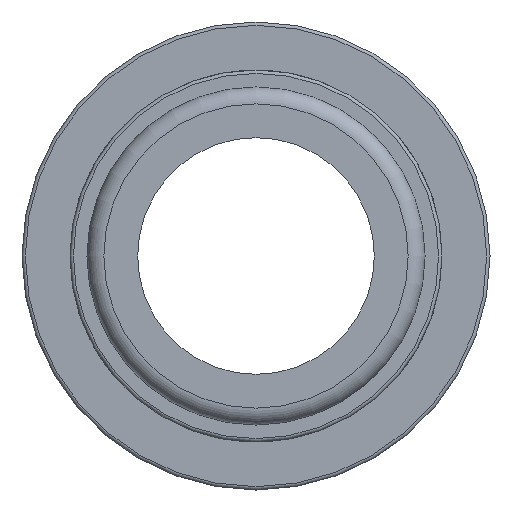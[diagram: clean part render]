
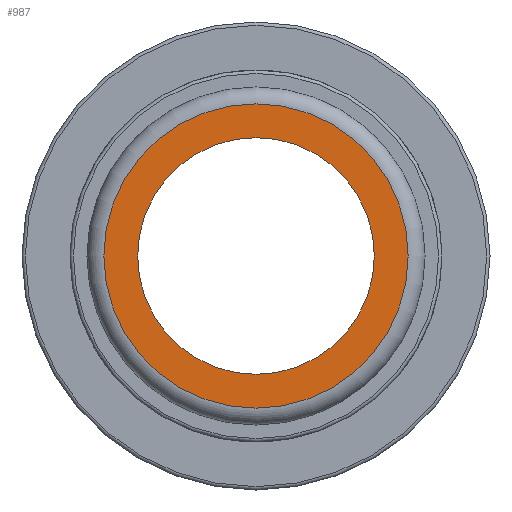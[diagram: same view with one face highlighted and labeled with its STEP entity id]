
A CAD part, left-side view. The second image highlights one B-rep face of the part: STEP entity #987.
In plain terms, the highlighted planar face has unit normal (-1, 0, 0).
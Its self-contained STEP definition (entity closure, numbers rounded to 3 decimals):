
#181=PLANE('',#1101);
#217=FACE_BOUND('',#343,.T.);
#273=FACE_OUTER_BOUND('',#342,.T.);
#342=EDGE_LOOP('',(#913));
#343=EDGE_LOOP('',(#914));
#402=CIRCLE('',#1099,18.86);
#404=CIRCLE('',#1102,14.669);
#500=VERTEX_POINT('',#1872);
#502=VERTEX_POINT('',#1877);
#640=EDGE_CURVE('',#500,#500,#402,.T.);
#642=EDGE_CURVE('',#502,#502,#404,.T.);
#913=ORIENTED_EDGE('',*,*,#640,.F.);
#914=ORIENTED_EDGE('',*,*,#642,.T.);
#987=ADVANCED_FACE('',(#273,#217),#181,.T.);
#1099=AXIS2_PLACEMENT_3D('',#1873,#1380,#1381);
#1101=AXIS2_PLACEMENT_3D('',#1876,#1384,#1385);
#1102=AXIS2_PLACEMENT_3D('',#1878,#1386,#1387);
#1380=DIRECTION('center_axis',(1.,0.,0.));
#1381=DIRECTION('ref_axis',(0.,-1.,0.));
#1384=DIRECTION('center_axis',(-1.,0.,0.));
#1385=DIRECTION('ref_axis',(0.,0.,1.));
#1386=DIRECTION('center_axis',(1.,0.,0.));
#1387=DIRECTION('ref_axis',(0.,0.,-1.));
#1872=CARTESIAN_POINT('',(-100.,18.86,0.));
#1873=CARTESIAN_POINT('Origin',(-100.,0.,0.));
#1876=CARTESIAN_POINT('Origin',(-100.,20.955,0.));
#1877=CARTESIAN_POINT('',(-100.,14.669,0.));
#1878=CARTESIAN_POINT('Origin',(-100.,0.,0.));
